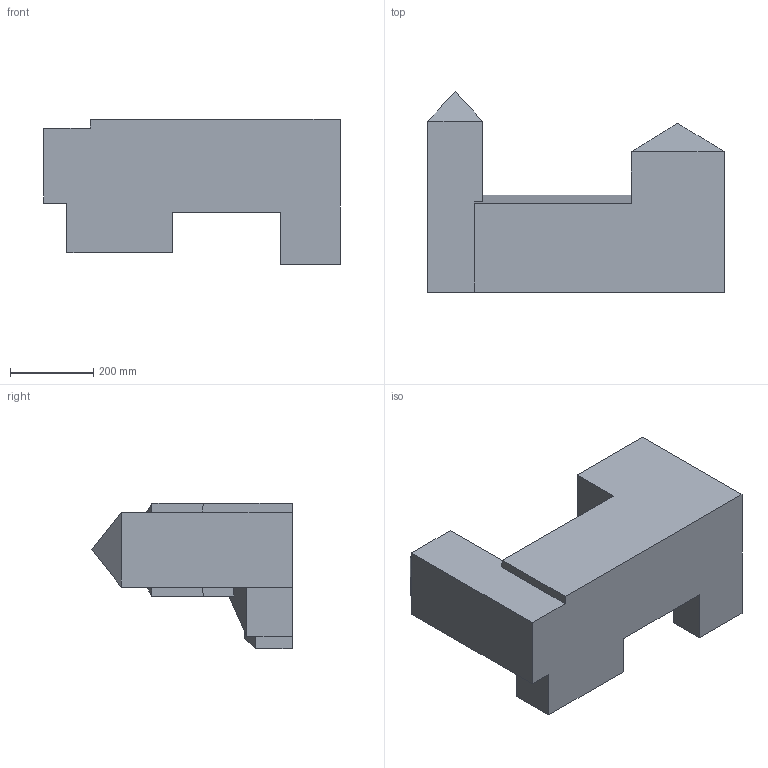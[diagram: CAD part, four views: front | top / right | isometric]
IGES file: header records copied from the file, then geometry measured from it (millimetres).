
Start section: Translator GID - IGES
Global section: file name: C:/gid project/NewExamples/Import/Church.igs; organization: CIMNE
Bounding box: 713.74 x 482.6 x 350.52 mm (x, y, z)
Surface area: 1086008.5 mm2 (no closed solid volume)
Topology: 0 solids, 0 shells, 33 faces, 162 edges, 162 vertices
Faces by surface type: bspline 33
